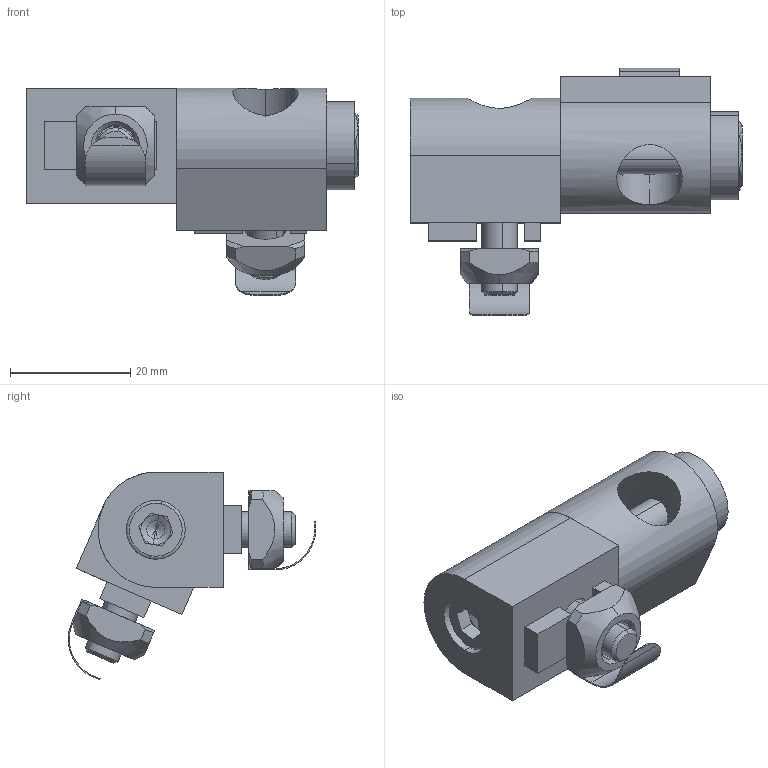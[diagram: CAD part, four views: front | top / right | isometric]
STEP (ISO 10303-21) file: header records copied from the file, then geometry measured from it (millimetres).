
FILE_DESCRIPTION (( 'STEP AP214' ), '1' );
FILE_NAME ('1.3033 Säädettävä kulma suojaseinille.STEP', '2024-02-01T07:22:07', ( '' ), ( '' ), 'SwSTEP 2.0', 'SolidWorks 2024', '' );
FILE_SCHEMA (( 'AUTOMOTIVE_DESIGN' ));
Length unit declared in the file: millimetre
Products named in the file (6): Part1; hex nut gradec_din_Hexagon Nut ISO 4034 - M6 - C; 1.3033 Säädettävä kulma suojaseinille; 1.2014 Neliömutteri M8 kiinnityslevyllä; 1.2068 Kuusiokoloruuvi M6x16; socket thin pilot cap screw_din_DIN 6912 - M6 x 50 --- 18C
Assembly tree (8 placements, depth 2):
  1.3033 Säädettävä kulma suojaseinille
    Part1  x2
    socket thin pilot cap screw_din_DIN 6912 - M6 x 50 --- 18C
    hex nut gradec_din_Hexagon Nut ISO 4034 - M6 - C
    1.2068 Kuusiokoloruuvi M6x16  x2
    1.2014 Neliömutteri M8 kiinnityslevyllä  x2
Bounding box: 55.3 x 41.24 x 34.6 mm (x, y, z)
Volume: 19206.9 mm3; surface area: 12304.6 mm2
Topology: 8 solids, 8 shells, 263 faces, 610 edges, 375 vertices
Faces by surface type: plane 147, cylinder 60, cone 44, torus 12
Entity records: 5118 total; most frequent: CARTESIAN_POINT 1226, DIRECTION 774, ORIENTED_EDGE 728, EDGE_CURVE 364, AXIS2_PLACEMENT_3D 287, VERTEX_POINT 223, VECTOR 200, LINE 200
